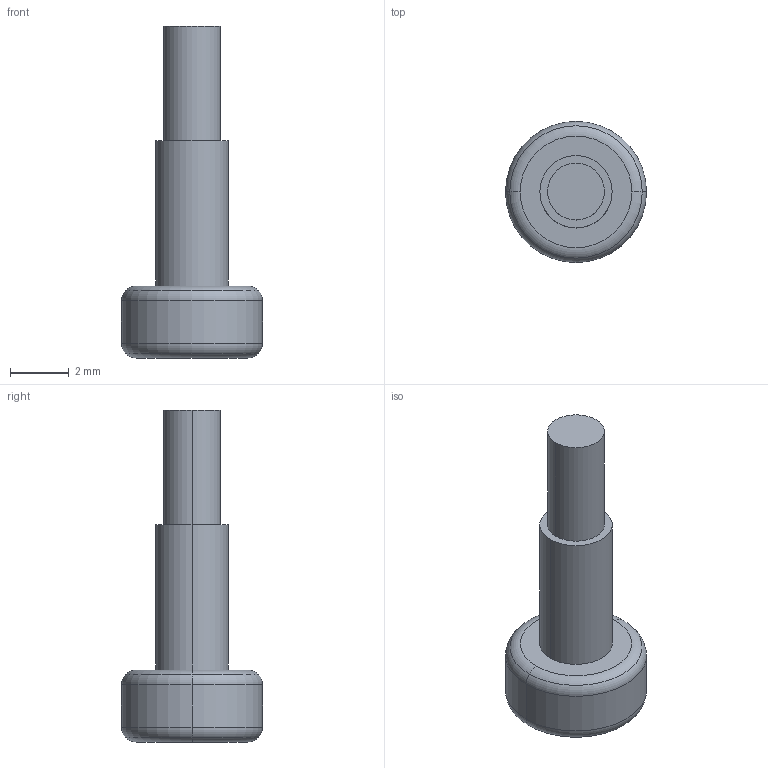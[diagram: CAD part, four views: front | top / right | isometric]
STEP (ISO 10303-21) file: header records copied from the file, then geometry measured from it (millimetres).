
FILE_DESCRIPTION((''),'2;1');
FILE_NAME('M2X2_5X20_SHSS_MACHINE_SCREW_-_','2024-05-15T17:21:41',('qinghui.yi'),(''),'CREO PARAMETRIC BY PTC INC, 2019164','CREO PARAMETRIC BY PTC INC, 2019164','');
FILE_SCHEMA(('CONFIG_CONTROL_DESIGN','SHAPE_APPEARANCE_LAYERS_GROUPS'));
Length unit declared in the file: millimetre
Products named in the file (1): M2X2_5X20_SHSS_MACHINE_SCREW_-_
Bounding box: 4.8 x 4.8 x 11.3 mm (x, y, z)
Volume: 73.8 mm3; surface area: 136.1 mm2
Topology: 1 solids, 1 shells, 25 faces, 55 edges, 38 vertices
Faces by surface type: plane 11, torus 8, cylinder 6
Entity records: 1234 total; most frequent: COLOUR_RGB 313, DIRECTION 135, CARTESIAN_POINT 113, ORIENTED_EDGE 104, PRESENTATION_STYLE_ASSIGNMENT 57, STYLED_ITEM 57, CURVE_STYLE 56, AXIS2_PLACEMENT_3D 54
